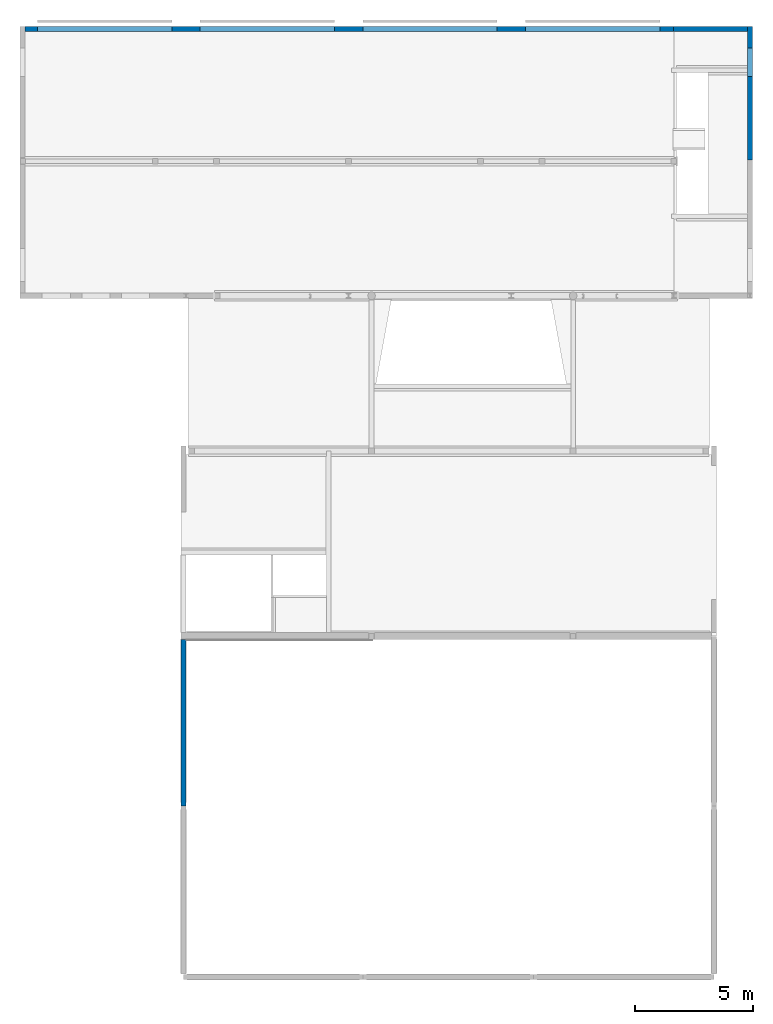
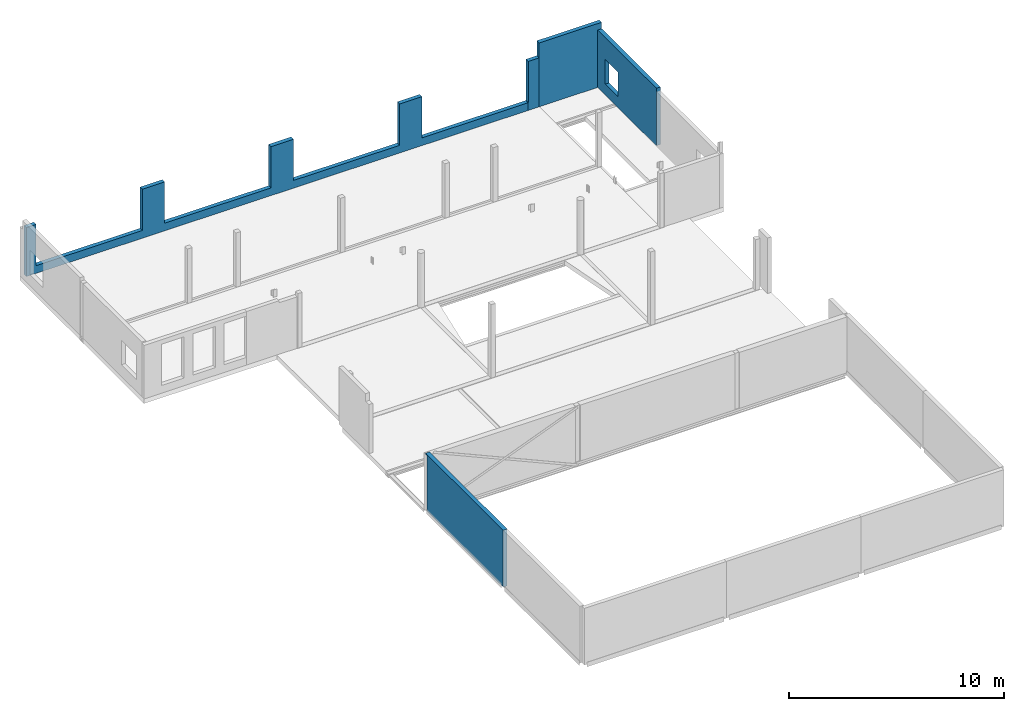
# One storey, part 4 of 6: 5 walls, 6 openings.
"""IFC2X3 building model written with IfcOpenShell, lengths in millimetres."""

from ifc_helpers import new_model, entity, si_unit, converted_unit, derived_unit, direction, frame, frame_2d, origin, origin_2d_with_axis, place, context, subcontext, project, spatial, rectangle, extrude, faceted_brep, material, layer, layer_set, layer_usage, type_object, element, save


model = new_model("IFC2X3")

# Units and contexts
model_context = context("Model", 3, precision=0.01, world=origin(), true_north=direction((6.123031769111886e-17, 1.0)))
body_context = subcontext(model_context, "Body", "Model", "MODEL_VIEW")
ifc_project = project(units=[si_unit("LENGTHUNIT", "METRE", prefix="MILLI"), si_unit("AREAUNIT", "SQUARE_METRE", prefix="MILLI"), si_unit("VOLUMEUNIT", "CUBIC_METRE"), converted_unit("PLANEANGLEUNIT", "DEGREE", entity("IfcPlaneAngleMeasure", 0.017453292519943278), si_unit("PLANEANGLEUNIT", "RADIAN"), dimensions=[0, 0, 0, 0, 0, 0, 0]), si_unit("MASSUNIT", "GRAM", prefix="KILO"), derived_unit("MASSDENSITYUNIT", [(si_unit("MASSUNIT", "GRAM", prefix="KILO"), 1), (si_unit("LENGTHUNIT", "METRE"), -3)]), derived_unit("IONCONCENTRATIONUNIT", [(si_unit("MASSUNIT", "GRAM", prefix="KILO"), 1), (si_unit("LENGTHUNIT", "METRE"), -3)]), derived_unit("MOMENTOFINERTIAUNIT", [(si_unit("LENGTHUNIT", "METRE"), 4)]), si_unit("TIMEUNIT", "SECOND"), si_unit("FREQUENCYUNIT", "HERTZ"), si_unit("THERMODYNAMICTEMPERATUREUNIT", "DEGREE_CELSIUS"), derived_unit("THERMALTRANSMITTANCEUNIT", [(si_unit("MASSUNIT", "GRAM", prefix="KILO"), 1), (si_unit("THERMODYNAMICTEMPERATUREUNIT", "KELVIN"), -1), (si_unit("TIMEUNIT", "SECOND"), -3)]), derived_unit("THERMALCONDUCTANCEUNIT", [(si_unit("MASSUNIT", "GRAM", prefix="KILO"), 1), (si_unit("THERMODYNAMICTEMPERATUREUNIT", "KELVIN"), -1), (si_unit("TIMEUNIT", "SECOND"), -3), (si_unit("LENGTHUNIT", "METRE"), 1)]), derived_unit("VOLUMETRICFLOWRATEUNIT", [(si_unit("LENGTHUNIT", "METRE", prefix="DECI"), 3), (si_unit("TIMEUNIT", "SECOND"), -1)]), derived_unit("MASSFLOWRATEUNIT", [(si_unit("MASSUNIT", "GRAM", prefix="KILO"), 1), (si_unit("TIMEUNIT", "SECOND"), -1)]), derived_unit("ROTATIONALFREQUENCYUNIT", [(si_unit("TIMEUNIT", "SECOND"), -1)]), si_unit("ELECTRICCURRENTUNIT", "AMPERE"), si_unit("ELECTRICVOLTAGEUNIT", "VOLT"), si_unit("POWERUNIT", "WATT"), si_unit("FORCEUNIT", "NEWTON", prefix="KILO"), si_unit("ILLUMINANCEUNIT", "LUX"), si_unit("LUMINOUSFLUXUNIT", "LUMEN"), si_unit("LUMINOUSINTENSITYUNIT", "CANDELA"), si_unit("ENERGYUNIT", "JOULE"), derived_unit("USERDEFINED", [(si_unit("MASSUNIT", "GRAM", prefix="KILO"), -1), (si_unit("LENGTHUNIT", "METRE"), -2), (si_unit("TIMEUNIT", "SECOND"), 3), (si_unit("LUMINOUSFLUXUNIT", "LUMEN"), 1)]), derived_unit("USERDEFINED", [(si_unit("MASSUNIT", "GRAM", prefix="KILO"), 1), (si_unit("TIMEUNIT", "SECOND"), -3), (si_unit("LENGTHUNIT", "METRE"), 3), (si_unit("ELECTRICCURRENTUNIT", "AMPERE"), -2)]), derived_unit("SOUNDPOWERUNIT", [(si_unit("MASSUNIT", "GRAM", prefix="KILO"), 1), (si_unit("TIMEUNIT", "SECOND"), -3), (si_unit("LENGTHUNIT", "METRE"), 2)]), derived_unit("SOUNDPRESSUREUNIT", [(si_unit("MASSUNIT", "GRAM", prefix="KILO"), 1), (si_unit("LENGTHUNIT", "METRE"), -1), (si_unit("TIMEUNIT", "SECOND"), -2)]), derived_unit("LINEARVELOCITYUNIT", [(si_unit("LENGTHUNIT", "METRE"), 1), (si_unit("TIMEUNIT", "SECOND"), -1)]), si_unit("PRESSUREUNIT", "PASCAL"), derived_unit("USERDEFINED", [(si_unit("MASSUNIT", "GRAM", prefix="KILO"), 1), (si_unit("LENGTHUNIT", "METRE"), -2), (si_unit("TIMEUNIT", "SECOND"), -2)]), derived_unit("LINEARFORCEUNIT", [(si_unit("MASSUNIT", "GRAM", prefix="KILO"), 1), (si_unit("TIMEUNIT", "SECOND"), -2)]), derived_unit("PLANARFORCEUNIT", [(si_unit("MASSUNIT", "GRAM", prefix="KILO"), 1), (si_unit("LENGTHUNIT", "METRE"), -1), (si_unit("TIMEUNIT", "SECOND"), -2)]), derived_unit("SPECIFICHEATCAPACITYUNIT", [(si_unit("THERMODYNAMICTEMPERATUREUNIT", "KELVIN"), -1), (si_unit("LENGTHUNIT", "METRE"), 2), (si_unit("TIMEUNIT", "SECOND"), -2)]), derived_unit("HEATFLUXDENSITYUNIT", [(si_unit("MASSUNIT", "GRAM", prefix="KILO"), 1), (si_unit("TIMEUNIT", "SECOND"), -3)]), derived_unit("HEATINGVALUEUNIT", [(si_unit("LENGTHUNIT", "METRE"), 2), (si_unit("TIMEUNIT", "SECOND"), -2)]), derived_unit("VAPORPERMEABILITYUNIT", [(si_unit("LENGTHUNIT", "METRE"), -1), (si_unit("TIMEUNIT", "SECOND"), 1)]), derived_unit("DYNAMICVISCOSITYUNIT", [(si_unit("MASSUNIT", "GRAM", prefix="KILO"), 1), (si_unit("TIMEUNIT", "SECOND"), -1), (si_unit("LENGTHUNIT", "METRE"), -1)]), derived_unit("THERMALEXPANSIONCOEFFICIENTUNIT", [(si_unit("THERMODYNAMICTEMPERATUREUNIT", "KELVIN"), -1)]), derived_unit("MODULUSOFELASTICITYUNIT", [(si_unit("MASSUNIT", "GRAM", prefix="KILO"), 1), (si_unit("LENGTHUNIT", "METRE"), -1), (si_unit("TIMEUNIT", "SECOND"), -2)]), derived_unit("ISOTHERMALMOISTURECAPACITYUNIT", [(si_unit("MASSUNIT", "GRAM", prefix="KILO"), -1), (si_unit("LENGTHUNIT", "METRE"), 3)]), derived_unit("MOISTUREDIFFUSIVITYUNIT", [(si_unit("TIMEUNIT", "SECOND"), -1), (si_unit("LENGTHUNIT", "METRE"), 2)]), derived_unit("MASSPERLENGTHUNIT", [(si_unit("MASSUNIT", "GRAM", prefix="KILO"), 1), (si_unit("LENGTHUNIT", "METRE"), -1)]), derived_unit("THERMALRESISTANCEUNIT", [(si_unit("MASSUNIT", "GRAM", prefix="KILO"), -1), (si_unit("TIMEUNIT", "SECOND"), 3), (si_unit("THERMODYNAMICTEMPERATUREUNIT", "KELVIN"), 1)]), derived_unit("ACCELERATIONUNIT", [(si_unit("LENGTHUNIT", "METRE"), 1), (si_unit("TIMEUNIT", "SECOND"), -2)]), derived_unit("ANGULARVELOCITYUNIT", [(si_unit("TIMEUNIT", "SECOND"), -1), (si_unit("PLANEANGLEUNIT", "RADIAN"), 1)]), derived_unit("LINEARSTIFFNESSUNIT", [(si_unit("MASSUNIT", "GRAM", prefix="KILO"), 1), (si_unit("TIMEUNIT", "SECOND"), -2)]), derived_unit("WARPINGCONSTANTUNIT", [(si_unit("LENGTHUNIT", "METRE"), 6)]), derived_unit("LINEARMOMENTUNIT", [(si_unit("MASSUNIT", "GRAM", prefix="KILO"), 1), (si_unit("LENGTHUNIT", "METRE"), 1), (si_unit("TIMEUNIT", "SECOND"), -2)]), derived_unit("TORQUEUNIT", [(si_unit("MASSUNIT", "GRAM", prefix="KILO"), 1), (si_unit("LENGTHUNIT", "METRE"), 2), (si_unit("TIMEUNIT", "SECOND"), -2)])], contexts=[model_context])

# Site, building, storey
site_placement = place(None, origin())
site = spatial("IfcSite", under=ifc_project, at=site_placement, Name="Default", CompositionType="ELEMENT")
building_placement = place(site_placement, origin())
building = spatial("IfcBuilding", under=site, at=building_placement, CompositionType="ELEMENT")
storey_placement = place(building_placement, frame((0.0, 0.0, 7530.0)))
storey = spatial("IfcBuildingStorey", under=building, at=storey_placement, Name="V2 2e verd. (bk ruwe vloer)", CompositionType="ELEMENT", Elevation=7529.999999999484)

# Wall, openings
ifc_material = material(Name="Kalkzandsteen, lijmwerk CS12")
ifc_layer = layer(ifc_material, 214.0)
ifc_layer_set = layer_set([ifc_layer], Name="Basic Wall:bt_kzst 214")
ifc_layer_usage = layer_usage(ifc_layer_set, "AXIS2", "NEGATIVE", 107.0)
wall_type = type_object("IfcWallType", Name="Basic Wall:bt_kzst 214", PredefinedType="STANDARD", material=ifc_layer_set)
wall_1_placement = place(storey_placement, frame((0.0, 43251.57320506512, 0.0)))
wall_1 = element("IfcWallStandardCase", 1, at=wall_1_placement, inside=storey, type_object=wall_type, material=ifc_layer_usage, Name="Basic Wall:bt_kzst 214", ObjectType="Basic Wall:bt_kzst 214", context=body_context, shape_type="SweptSolid", body=[
    extrude(rectangle(XDim=26925.411850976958, YDim=214.00000000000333, at=frame_2d((13462.705925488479, 0.0), x_axis=(-1.0, 0.0))), origin(), (0.0, 0.0, 1.0), 2777.999999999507),
])
opening_1_placement = place(wall_1_placement, frame((0.0, -43251.57320506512, 0.0)))
element("IfcOpeningElement", 2, at=opening_1_placement, cuts=wall_1, Name="Basic Wall:bt_kzst 214", ObjectType="Opening", context=body_context, shape_type="SweptSolid", body=[
    extrude(rectangle(XDim=2340.0, YDim=5700.301691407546, at=frame_2d((-2.2737367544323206e-12, 5.684341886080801e-13), x_axis=(0.0, 1.0))), frame((24076.705829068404, 41620.57320506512, 1608.0), z_axis=(0.0, 1.0, 0.0), x_axis=(1.0, 0.0, 0.0)), (0.0, 0.0, 1.0), 3048.0),
])
opening_2_placement = place(wall_1_placement, frame((0.0, -43251.57320506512, 0.0)))
element("IfcOpeningElement", 3, at=opening_2_placement, cuts=wall_1, Name="Basic Wall:bt_kzst 214", ObjectType="Opening", context=body_context, shape_type="SweptSolid", body=[
    extrude(rectangle(XDim=2340.0, YDim=5700.30045538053, at=frame_2d((-5.684341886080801e-13, -6.821210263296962e-13), x_axis=(1.0, 0.0))), frame((3375.6154184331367, 41834.57320506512, 1608.0), z_axis=(0.0, 1.0, 0.0), x_axis=(0.0, 0.0, -1.0)), (0.0, 0.0, 1.0), 3048.0),
])
opening_3_placement = place(wall_1_placement, frame((0.0, -43251.57320506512, 0.0)))
element("IfcOpeningElement", 4, at=opening_3_placement, cuts=wall_1, Name="Basic Wall:bt_kzst 214", ObjectType="Opening", context=body_context, shape_type="SweptSolid", body=[
    extrude(rectangle(XDim=2340.0, YDim=5700.299494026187, at=frame_2d((-5.684341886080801e-13, -1.1368683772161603e-12), x_axis=(1.0, 0.0))), frame((10275.978598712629, 41834.57320506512, 1608.0), z_axis=(0.0, 1.0, 0.0), x_axis=(0.0, 0.0, -1.0)), (0.0, 0.0, 1.0), 3048.0),
])
opening_4_placement = place(wall_1_placement, frame((0.0, -43251.57320506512, 0.0)))
element("IfcOpeningElement", 5, at=opening_4_placement, cuts=wall_1, Name="Basic Wall:bt_kzst 214", ObjectType="Opening", context=body_context, shape_type="SweptSolid", body=[
    extrude(rectangle(XDim=2339.999999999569, YDim=5700.300226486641, at=frame_2d((0.0, -2.0463630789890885e-12), x_axis=(1.0, 0.0))), frame((17176.341664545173, 41834.57320506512, 1608.0), z_axis=(0.0, 1.0, 0.0), x_axis=(0.0, 0.0, -1.0)), (0.0, 0.0, 1.0), 3048.0),
])

# Wall, opening
wall_2_placement = place(storey_placement, frame((26925.411850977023, 43251.5732050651, 0.0)))
wall_2 = element("IfcWallStandardCase", 6, at=wall_2_placement, inside=storey, type_object=wall_type, material=ifc_layer_usage, Name="Basic Wall:bt_kzst 214", ObjectType="Basic Wall:bt_kzst 214", context=body_context, shape_type="SweptSolid", body=[
    extrude(rectangle(XDim=590.0000000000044, YDim=214.00000000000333, at=frame_2d((295.0000000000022, 0.0), x_axis=(-1.0, 0.0))), origin(), (0.0, 0.0, 1.0), 2777.999999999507),
])
opening_5_placement = place(wall_2_placement, origin())
element("IfcOpeningElement", 7, at=opening_5_placement, cuts=wall_2, Name="Basic Wall:bt_kzst 214", ObjectType="Opening", context=body_context, shape_type="SweptSolid", body=[
    extrude(rectangle(XDim=2340.0, YDim=5700.301691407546, at=frame_2d((-2.2737367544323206e-12, 5.684341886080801e-13), x_axis=(0.0, 1.0))), frame((-2848.7060219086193, -1631.0, 1608.0), z_axis=(0.0, 1.0, 0.0), x_axis=(1.0, 0.0, 0.0)), (0.0, 0.0, 1.0), 3048.0),
])

wall_3_placement = place(storey_placement, frame((30756.977194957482, 43358.5732050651, 0.0), z_axis=(0.0, 0.0, 1.0), x_axis=(0.0, -1.0, 0.0)))
wall_3 = element("IfcWallStandardCase", 8, at=wall_3_placement, inside=storey, type_object=wall_type, material=ifc_layer_usage, Name="Basic Wall:bt_kzst 214", ObjectType="Basic Wall:bt_kzst 214", context=body_context, shape_type="SweptSolid", body=[
    extrude(rectangle(XDim=5664.187499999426, YDim=214.00000000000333, at=frame_2d((2832.093749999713, 8.526512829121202e-14), x_axis=(-1.0, 0.0))), origin(), (0.0, 0.0, 1.0), 3259.9999999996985),
])
opening_6_placement = place(wall_3_placement, frame((43358.5732050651, -30756.977194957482, 0.0), z_axis=(0.0, 0.0, 1.0), x_axis=(0.0, 1.0, 0.0)))
element("IfcOpeningElement", 9, at=opening_6_placement, cuts=wall_3, Name="Basic Wall:bt_kzst 214", ObjectType="Opening", context=body_context, shape_type="SweptSolid", body=[
    extrude(rectangle(XDim=1400.0, YDim=1200.149653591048, at=origin_2d_with_axis()), frame((29339.977194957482, 41844.49837826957, 1315.9854748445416), z_axis=(1.0, 0.0, 0.0), x_axis=(0.0, 0.0, -1.0)), (0.0, 0.0, 1.0), 3048.0),
])

# Walls
wall_4_placement = place(storey_placement, frame((27515.411850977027, 43251.5732050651, 0.0)))
element("IfcWall", 10, at=wall_4_placement, inside=storey, type_object=wall_type, Name="Basic Wall:bt_kzst 214", ObjectType="Basic Wall:bt_kzst 214", context=body_context, shape_type="Brep", body=[
    faceted_brep([(0.0, -107.0, 0.0), (3134.565343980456, -107.0, 0.0), (3134.565343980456, -107.0, 3260.0), (3348.56534398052, -107.0, 3260.0), (3348.56534398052, -107.0, 3621.8999999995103), (0.0, -107.0, 3621.8999999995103), (0.0, -107.0, 2778.0), (0.0, 107.0, 0.0), (0.0, 107.0, 2778.0), (0.0, 107.0, 3621.8999999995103), (3348.56534398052, 107.0, 3621.8999999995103), (3348.56534398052, 107.0, 3260.0), (3134.565343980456, 107.0, 3260.0), (3134.565343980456, 107.0, 0.0)], [[[0, 1, 2, 3, 4, 5, 6]], [[7, 8, 9, 10, 11, 12, 13]], [[1, 0, 7, 13]], [[5, 4, 10, 9]], [[0, 6, 5, 9, 8, 7]], [[11, 3, 2, 12]], [[2, 1, 13, 12]], [[4, 3, 11, 10]]]),
])
wall_5_placement = place(storey_placement, frame((6718.0007812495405, 17494.60501307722, 3.1000000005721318), z_axis=(0.0, 0.0, 1.0), x_axis=(0.0, -1.0, 0.0)))
element("IfcWall", 11, at=wall_5_placement, inside=storey, type_object=wall_type, Name="Basic Wall:bt_kzst 214", ObjectType="Basic Wall:bt_kzst 214", context=body_context, shape_type="Brep", body=[
    faceted_brep([(150.0, -107.0, 0.0), (7203.75, -107.0, 0.0), (7203.75, -107.0, 3221.8531249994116), (0.0, -107.0, 3221.8531249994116), (0.0, -107.0, 3164.853124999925), (150.0, -107.0, 3164.853124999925), (150.0, 107.0, 0.0), (150.0, 107.0, 3164.853124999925), (0.0, 107.0, 3164.853124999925), (0.0, 107.0, 3221.8531249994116), (7203.75, 107.0, 3221.8531249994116), (7203.75, 107.0, 0.0)], [[[0, 1, 2, 3, 4, 5]], [[6, 7, 8, 9, 10, 11]], [[1, 0, 6, 11]], [[2, 1, 11, 10]], [[3, 2, 10, 9]], [[4, 3, 9, 8]], [[0, 5, 7, 6]], [[4, 8, 7, 5]]]),
])

save(model, "model.ifc")
